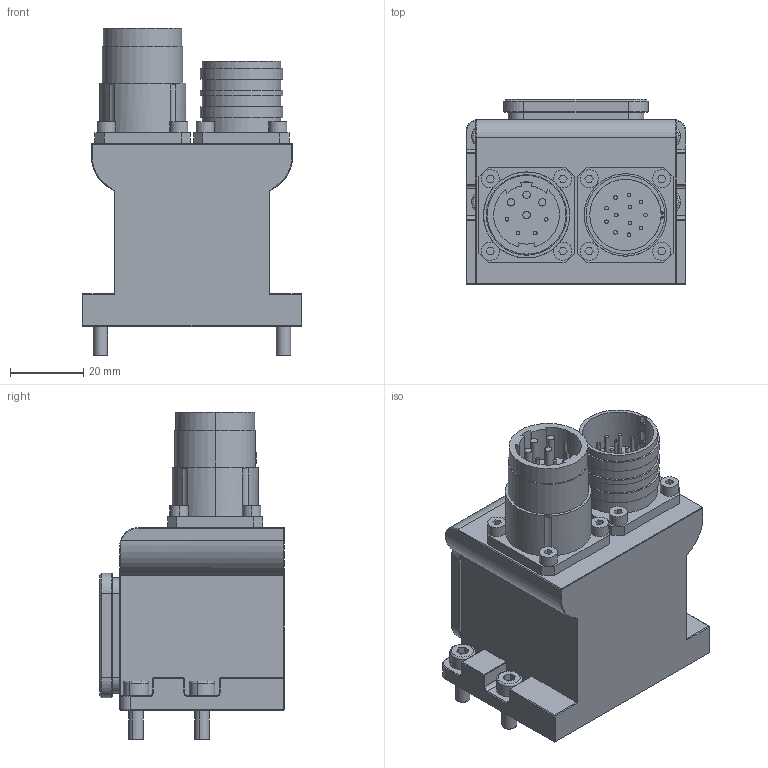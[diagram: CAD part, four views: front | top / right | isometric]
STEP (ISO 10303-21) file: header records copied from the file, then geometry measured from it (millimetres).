
FILE_DESCRIPTION (( 'STEP AP203' ), '1' );
FILE_NAME ('ﾋﾅｷﾗﾜｳﾉﾄ｣ｿ餝.STEP', '2025-02-20T00:44:18', ( 'Windows ﾓﾃｻｧ' ), ( 'Organization' ), 'SwSTEP 2.0', 'SolidWorks 2018', '' );
FILE_SCHEMA (( 'CONFIG_CONTROL_DESIGN' ));
Length unit declared in the file: millimetre
Products named in the file (1): 侜督軞傖耀輸R
Bounding box: 60 x 50.5 x 89.5 mm (x, y, z)
Volume: 130244.2 mm3; surface area: 28108.4 mm2
Topology: 1 solids, 1 shells, 1280 faces, 2827 edges, 1662 vertices
Faces by surface type: plane 850, cylinder 270, cone 142, sphere 8, torus 8, bspline 2
Entity records: 34508 total; most frequent: CARTESIAN_POINT 6930, DIRECTION 5739, ORIENTED_EDGE 5630, EDGE_CURVE 2815, AXIS2_PLACEMENT_3D 2023, LINE 1693, VECTOR 1693, VERTEX_POINT 1662
